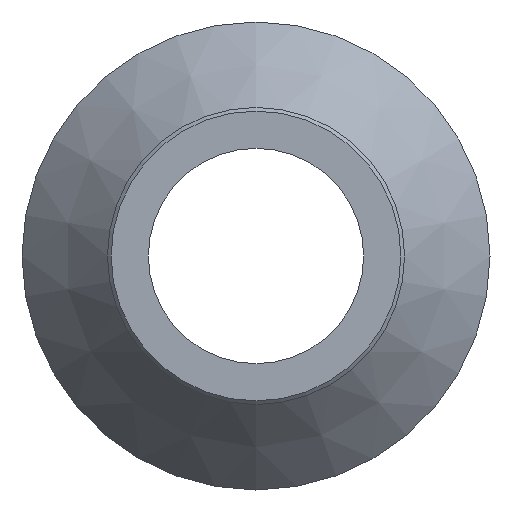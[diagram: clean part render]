
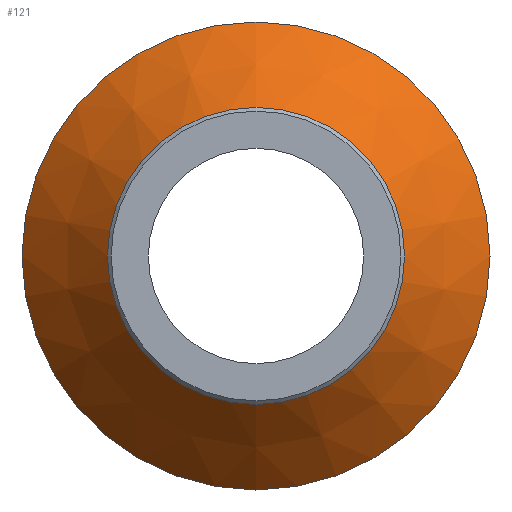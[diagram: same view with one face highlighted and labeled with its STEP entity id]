
A CAD part, left-side view. The second image highlights one B-rep face of the part: STEP entity #121.
In plain terms, the highlighted conical face has half-angle 41.496 degrees and reference radius 31.5 mm.
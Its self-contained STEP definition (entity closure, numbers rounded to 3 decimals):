
#22=CONICAL_SURFACE('',#146,31.5,0.724);
#28=ORIENTED_EDGE('',*,*,#48,.F.);
#29=ORIENTED_EDGE('',*,*,#47,.T.);
#47=EDGE_CURVE('',#57,#57,#67,.T.);
#48=EDGE_CURVE('',#58,#58,#68,.T.);
#57=VERTEX_POINT('',#210);
#58=VERTEX_POINT('',#213);
#67=CIRCLE('',#145,31.5);
#68=CIRCLE('',#147,20.);
#78=EDGE_LOOP('',(#28));
#79=EDGE_LOOP('',(#29));
#98=FACE_BOUND('',#78,.T.);
#99=FACE_BOUND('',#79,.T.);
#121=ADVANCED_FACE('',(#98,#99),#22,.T.);
#145=AXIS2_PLACEMENT_3D('',#209,#169,#170);
#146=AXIS2_PLACEMENT_3D('',#211,#171,#172);
#147=AXIS2_PLACEMENT_3D('',#212,#173,#174);
#169=DIRECTION('',(-1.,0.,0.));
#170=DIRECTION('',(0.,0.,1.));
#171=DIRECTION('',(1.,0.,0.));
#172=DIRECTION('',(0.,0.,-1.));
#173=DIRECTION('',(-1.,0.,0.));
#174=DIRECTION('',(0.,0.,1.));
#209=CARTESIAN_POINT('',(6.5,0.,0.));
#210=CARTESIAN_POINT('',(6.5,0.,31.5));
#211=CARTESIAN_POINT('',(6.5,0.,0.));
#212=CARTESIAN_POINT('',(-6.5,0.,0.));
#213=CARTESIAN_POINT('',(-6.5,0.,20.));
